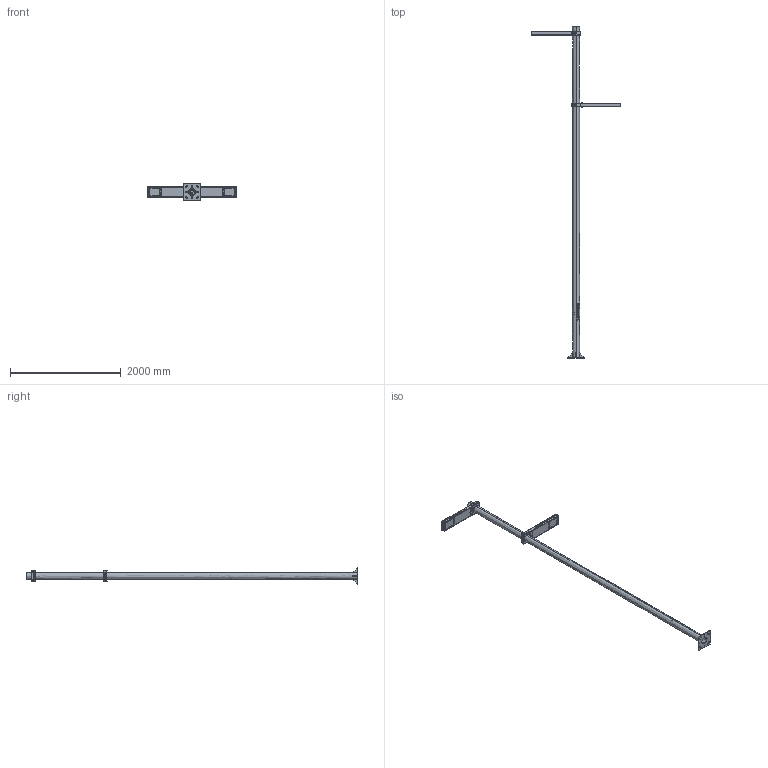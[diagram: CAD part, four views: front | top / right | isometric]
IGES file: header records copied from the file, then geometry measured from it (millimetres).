
Start section: SolidWorks IGES file using analytic representation for surfaces
Global section: file name: C:\SANTACOLE_PDM\Proyectos Catálogo\PROD-P08-042 -- RAMA LED\6_Técnico comercial\3D WEB\FAROLA RAMA LED 6.0M 2 LUMINARIAS DISTINTA ALTURA.IGS; native system: SolidWorks 2013; preprocessor: SolidWorks 2013; author: MarioV; date: 150330.183721; units: millimetre
Bounding box: 1626 x 6000 x 300 mm (x, y, z)
Volume: 11941218.5 mm3; surface area: 7144591 mm2
Topology: 57 solids, 57 shells, 7044 faces, 18711 edges, 11768 vertices
Faces by surface type: plane 4446, revolution 1532, bspline 1066
